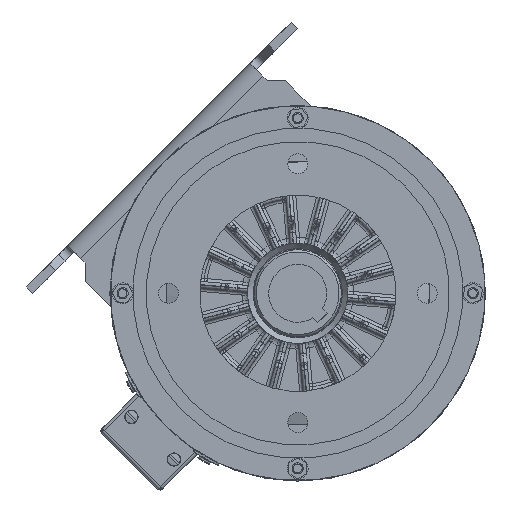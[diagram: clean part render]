
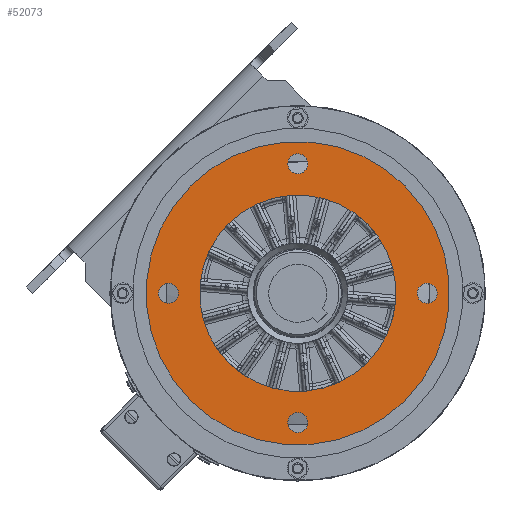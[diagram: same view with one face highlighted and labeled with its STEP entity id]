
A CAD part, front view. The second image highlights one B-rep face of the part: STEP entity #52073.
In plain terms, the highlighted planar face has unit normal (0, -1, 0).
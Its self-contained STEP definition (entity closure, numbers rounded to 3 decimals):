
#1455=FACE_BOUND('',#12862,.T.);
#1456=FACE_BOUND('',#12863,.T.);
#1457=FACE_BOUND('',#12864,.T.);
#1458=FACE_BOUND('',#12865,.T.);
#1459=FACE_BOUND('',#12866,.T.);
#1881=PLANE('',#56395);
#9436=FACE_OUTER_BOUND('',#12861,.T.);
#12861=EDGE_LOOP('',(#41384));
#12862=EDGE_LOOP('',(#41385));
#12863=EDGE_LOOP('',(#41386));
#12864=EDGE_LOOP('',(#41387));
#12865=EDGE_LOOP('',(#41388));
#12866=EDGE_LOOP('',(#41389));
#18581=CIRCLE('',#56396,4.25);
#18582=CIRCLE('',#56397,0.281);
#18583=CIRCLE('',#56398,0.281);
#18584=CIRCLE('',#56399,0.281);
#18585=CIRCLE('',#56400,0.281);
#18586=CIRCLE('',#56401,2.75);
#22932=VERTEX_POINT('',#113074);
#22933=VERTEX_POINT('',#113076);
#22934=VERTEX_POINT('',#113078);
#22935=VERTEX_POINT('',#113080);
#22936=VERTEX_POINT('',#113082);
#22937=VERTEX_POINT('',#113084);
#29392=EDGE_CURVE('',#22932,#22932,#18581,.T.);
#29393=EDGE_CURVE('',#22933,#22933,#18582,.T.);
#29394=EDGE_CURVE('',#22934,#22934,#18583,.T.);
#29395=EDGE_CURVE('',#22935,#22935,#18584,.T.);
#29396=EDGE_CURVE('',#22936,#22936,#18585,.T.);
#29397=EDGE_CURVE('',#22937,#22937,#18586,.T.);
#41384=ORIENTED_EDGE('',*,*,#29392,.T.);
#41385=ORIENTED_EDGE('',*,*,#29393,.F.);
#41386=ORIENTED_EDGE('',*,*,#29394,.F.);
#41387=ORIENTED_EDGE('',*,*,#29395,.F.);
#41388=ORIENTED_EDGE('',*,*,#29396,.F.);
#41389=ORIENTED_EDGE('',*,*,#29397,.F.);
#52073=ADVANCED_FACE('',(#9436,#1455,#1456,#1457,#1458,#1459),#1881,.F.);
#56395=AXIS2_PLACEMENT_3D('',#113073,#65814,#65815);
#56396=AXIS2_PLACEMENT_3D('',#113075,#65816,#65817);
#56397=AXIS2_PLACEMENT_3D('',#113077,#65818,#65819);
#56398=AXIS2_PLACEMENT_3D('',#113079,#65820,#65821);
#56399=AXIS2_PLACEMENT_3D('',#113081,#65822,#65823);
#56400=AXIS2_PLACEMENT_3D('',#113083,#65824,#65825);
#56401=AXIS2_PLACEMENT_3D('',#113085,#65826,#65827);
#65814=DIRECTION('center_axis',(0.,1.,0.));
#65815=DIRECTION('ref_axis',(0.707,0.,-0.707));
#65816=DIRECTION('center_axis',(0.,-1.,0.));
#65817=DIRECTION('ref_axis',(-0.707,0.,0.707));
#65818=DIRECTION('center_axis',(0.,-1.,0.));
#65819=DIRECTION('ref_axis',(-0.707,0.,0.707));
#65820=DIRECTION('center_axis',(0.,-1.,0.));
#65821=DIRECTION('ref_axis',(-0.707,0.,0.707));
#65822=DIRECTION('center_axis',(0.,-1.,0.));
#65823=DIRECTION('ref_axis',(-0.707,0.,0.707));
#65824=DIRECTION('center_axis',(0.,-1.,0.));
#65825=DIRECTION('ref_axis',(-0.707,0.,0.707));
#65826=DIRECTION('center_axis',(0.,-1.,0.));
#65827=DIRECTION('ref_axis',(-0.707,0.,0.707));
#113073=CARTESIAN_POINT('Origin',(-1.941,-2.186,-1.945));
#113074=CARTESIAN_POINT('',(3.009,-2.186,-3.005));
#113075=CARTESIAN_POINT('Origin',(0.004,-2.186,0.));
#113076=CARTESIAN_POINT('',(-3.422,-2.186,-0.199));
#113077=CARTESIAN_POINT('Origin',(-3.621,-2.186,0.));
#113078=CARTESIAN_POINT('',(3.828,-2.186,-0.199));
#113079=CARTESIAN_POINT('Origin',(3.629,-2.186,0.));
#113080=CARTESIAN_POINT('',(0.203,-2.186,3.426));
#113081=CARTESIAN_POINT('Origin',(0.004,-2.186,3.625));
#113082=CARTESIAN_POINT('',(0.203,-2.186,-3.824));
#113083=CARTESIAN_POINT('Origin',(0.004,-2.186,-3.625));
#113084=CARTESIAN_POINT('',(1.949,-2.186,-1.945));
#113085=CARTESIAN_POINT('Origin',(0.004,-2.186,0.));
